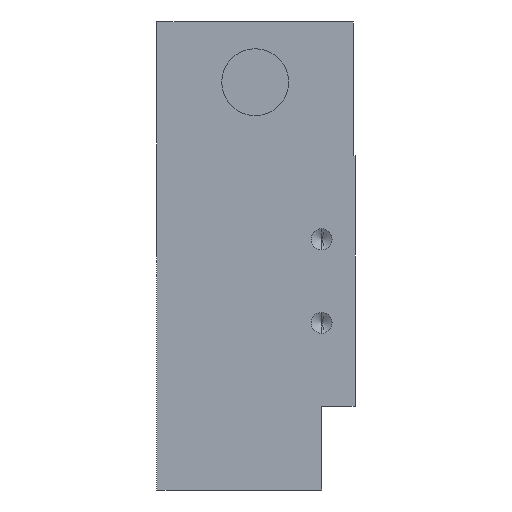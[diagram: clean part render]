
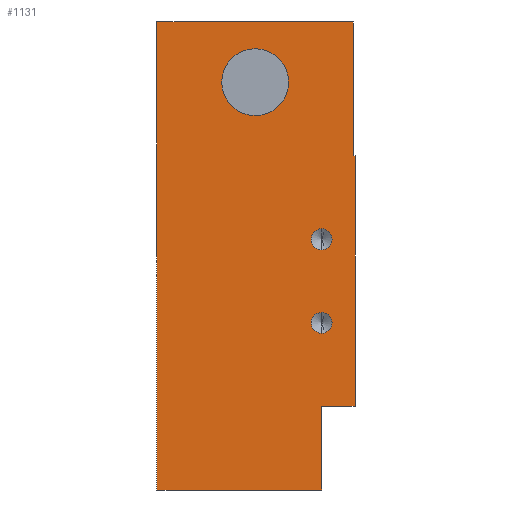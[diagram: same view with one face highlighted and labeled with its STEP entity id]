
A CAD part, left-side view. The second image highlights one B-rep face of the part: STEP entity #1131.
In plain terms, the highlighted planar face has unit normal (-1, 0, 0).
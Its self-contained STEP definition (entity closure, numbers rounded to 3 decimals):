
#20 = CARTESIAN_POINT ( 'NONE',  ( -59., 4., 0.75 ) ) ;
#44 = ORIENTED_EDGE ( 'NONE', *, *, #253, .T. ) ;
#64 = AXIS2_PLACEMENT_3D ( 'NONE', #1263, #907, #801 ) ;
#70 = LINE ( 'NONE', #699, #1400 ) ;
#87 = DIRECTION ( 'NONE',  ( 0., -1., 0. ) ) ;
#100 = CARTESIAN_POINT ( 'NONE',  ( -59., 0., 28. ) ) ;
#129 = VECTOR ( 'NONE', #355, 1000. ) ;
#138 = EDGE_LOOP ( 'NONE', ( #1427, #1503 ) ) ;
#157 = CARTESIAN_POINT ( 'NONE',  ( -59., 4., -8. ) ) ;
#162 = DIRECTION ( 'NONE',  ( 0., -1., 0. ) ) ;
#166 = CARTESIAN_POINT ( 'NONE',  ( -59., 23.7, 28. ) ) ;
#172 = VERTEX_POINT ( 'NONE', #20 ) ;
#173 = CARTESIAN_POINT ( 'NONE',  ( -59., 11.95, 20.8 ) ) ;
#176 = VERTEX_POINT ( 'NONE', #269 ) ;
#199 = LINE ( 'NONE', #803, #257 ) ;
#212 = FACE_BOUND ( 'NONE', #138, .T. ) ;
#237 = LINE ( 'NONE', #790, #916 ) ;
#248 = LINE ( 'NONE', #517, #353 ) ;
#253 = EDGE_CURVE ( 'NONE', #497, #1077, #237, .T. ) ;
#257 = VECTOR ( 'NONE', #697, 1000. ) ;
#269 = CARTESIAN_POINT ( 'NONE',  ( -59., 11.95, 24.8 ) ) ;
#276 = ORIENTED_EDGE ( 'NONE', *, *, #673, .T. ) ;
#279 = DIRECTION ( 'NONE',  ( 0., 0., 1. ) ) ;
#298 = DIRECTION ( 'NONE',  ( -1., 0., 0. ) ) ;
#309 = AXIS2_PLACEMENT_3D ( 'NONE', #722, #329, #1195 ) ;
#311 = DIRECTION ( 'NONE',  ( 0., 0., -1. ) ) ;
#317 = CARTESIAN_POINT ( 'NONE',  ( -59., 23.7, -28. ) ) ;
#324 = AXIS2_PLACEMENT_3D ( 'NONE', #157, #1029, #279 ) ;
#327 = CARTESIAN_POINT ( 'NONE',  ( -59., 4., -28. ) ) ;
#329 = DIRECTION ( 'NONE',  ( -1., 0., 0. ) ) ;
#343 = LINE ( 'NONE', #327, #1259 ) ;
#345 = EDGE_CURVE ( 'NONE', #931, #1146, #1104, .T. ) ;
#353 = VECTOR ( 'NONE', #162, 1000. ) ;
#355 = DIRECTION ( 'NONE',  ( 0., 0., 1. ) ) ;
#366 = CARTESIAN_POINT ( 'NONE',  ( -59., 4., -6.75 ) ) ;
#367 = FACE_BOUND ( 'NONE', #1207, .T. ) ;
#374 = AXIS2_PLACEMENT_3D ( 'NONE', #1418, #298, #1299 ) ;
#385 = CIRCLE ( 'NONE', #64, 1.25 ) ;
#424 = EDGE_CURVE ( 'NONE', #1097, #1077, #343, .T. ) ;
#440 = VECTOR ( 'NONE', #1214, 1000. ) ;
#462 = AXIS2_PLACEMENT_3D ( 'NONE', #173, #1055, #925 ) ;
#497 = VERTEX_POINT ( 'NONE', #317 ) ;
#507 = EDGE_CURVE ( 'NONE', #497, #701, #199, .T. ) ;
#517 = CARTESIAN_POINT ( 'NONE',  ( -59., 0.2, 12. ) ) ;
#540 = EDGE_CURVE ( 'NONE', #701, #1426, #953, .T. ) ;
#582 = DIRECTION ( 'NONE',  ( 0., 0., 1. ) ) ;
#594 = EDGE_CURVE ( 'NONE', #1146, #931, #1506, .T. ) ;
#601 = CARTESIAN_POINT ( 'NONE',  ( -59., 23.7, 28. ) ) ;
#620 = CARTESIAN_POINT ( 'NONE',  ( -59., 0.2, 12. ) ) ;
#647 = CIRCLE ( 'NONE', #309, 4. ) ;
#656 = CARTESIAN_POINT ( 'NONE',  ( -59., 4., -18. ) ) ;
#673 = EDGE_CURVE ( 'NONE', #1097, #1272, #70, .T. ) ;
#684 = ORIENTED_EDGE ( 'NONE', *, *, #1125, .F. ) ;
#688 = DIRECTION ( 'NONE',  ( 1., 0., 0. ) ) ;
#697 = DIRECTION ( 'NONE',  ( 0., 0., 1. ) ) ;
#699 = CARTESIAN_POINT ( 'NONE',  ( -59., 4., -18. ) ) ;
#701 = VERTEX_POINT ( 'NONE', #946 ) ;
#722 = CARTESIAN_POINT ( 'NONE',  ( -59., 11.95, 20.8 ) ) ;
#728 = ORIENTED_EDGE ( 'NONE', *, *, #735, .T. ) ;
#735 = EDGE_CURVE ( 'NONE', #1272, #1255, #1027, .T. ) ;
#766 = EDGE_LOOP ( 'NONE', ( #1270, #1035 ) ) ;
#769 = CARTESIAN_POINT ( 'NONE',  ( -59., 11.95, 16.8 ) ) ;
#772 = AXIS2_PLACEMENT_3D ( 'NONE', #1302, #935, #582 ) ;
#790 = CARTESIAN_POINT ( 'NONE',  ( -59., 23.7, -28. ) ) ;
#801 = DIRECTION ( 'NONE',  ( 0., 0., 1. ) ) ;
#803 = CARTESIAN_POINT ( 'NONE',  ( -59., 23.7, 28. ) ) ;
#819 = CARTESIAN_POINT ( 'NONE',  ( -59., 0.2, 28. ) ) ;
#891 = EDGE_LOOP ( 'NONE', ( #1246, #276, #728, #1153, #1322, #994, #973, #44 ) ) ;
#907 = DIRECTION ( 'NONE',  ( -1., 0., 0. ) ) ;
#911 = VECTOR ( 'NONE', #87, 1000. ) ;
#916 = VECTOR ( 'NONE', #1050, 1000. ) ;
#925 = DIRECTION ( 'NONE',  ( 0., 0., -1. ) ) ;
#931 = VERTEX_POINT ( 'NONE', #366 ) ;
#935 = DIRECTION ( 'NONE',  ( -1., 0., 0. ) ) ;
#946 = CARTESIAN_POINT ( 'NONE',  ( -59., 23.7, 28. ) ) ;
#951 = ORIENTED_EDGE ( 'NONE', *, *, #1202, .F. ) ;
#953 = LINE ( 'NONE', #601, #911 ) ;
#958 = VERTEX_POINT ( 'NONE', #620 ) ;
#973 = ORIENTED_EDGE ( 'NONE', *, *, #507, .F. ) ;
#978 = EDGE_CURVE ( 'NONE', #958, #1255, #248, .T. ) ;
#990 = VERTEX_POINT ( 'NONE', #769 ) ;
#994 = ORIENTED_EDGE ( 'NONE', *, *, #540, .F. ) ;
#1016 = VERTEX_POINT ( 'NONE', #1273 ) ;
#1027 = LINE ( 'NONE', #100, #129 ) ;
#1029 = DIRECTION ( 'NONE',  ( -1., 0., 0. ) ) ;
#1035 = ORIENTED_EDGE ( 'NONE', *, *, #1221, .F. ) ;
#1050 = DIRECTION ( 'NONE',  ( 0., -1., 0. ) ) ;
#1053 = CARTESIAN_POINT ( 'NONE',  ( -59., 0., 12. ) ) ;
#1055 = DIRECTION ( 'NONE',  ( -1., 0., 0. ) ) ;
#1061 = PLANE ( 'NONE',  #1441 ) ;
#1064 = DIRECTION ( 'NONE',  ( 0., -1., 0. ) ) ;
#1077 = VERTEX_POINT ( 'NONE', #1379 ) ;
#1097 = VERTEX_POINT ( 'NONE', #656 ) ;
#1104 = CIRCLE ( 'NONE', #324, 1.25 ) ;
#1108 = LINE ( 'NONE', #1447, #440 ) ;
#1124 = EDGE_CURVE ( 'NONE', #1016, #172, #1558, .T. ) ;
#1125 = EDGE_CURVE ( 'NONE', #176, #990, #1130, .T. ) ;
#1130 = CIRCLE ( 'NONE', #462, 4. ) ;
#1131 = ADVANCED_FACE ( 'NONE', ( #1268, #212, #367, #1478 ), #1061, .F. ) ;
#1146 = VERTEX_POINT ( 'NONE', #1284 ) ;
#1153 = ORIENTED_EDGE ( 'NONE', *, *, #978, .F. ) ;
#1195 = DIRECTION ( 'NONE',  ( 0., 0., -1. ) ) ;
#1202 = EDGE_CURVE ( 'NONE', #990, #176, #647, .T. ) ;
#1207 = EDGE_LOOP ( 'NONE', ( #951, #684 ) ) ;
#1214 = DIRECTION ( 'NONE',  ( 0., 0., -1. ) ) ;
#1221 = EDGE_CURVE ( 'NONE', #172, #1016, #385, .T. ) ;
#1246 = ORIENTED_EDGE ( 'NONE', *, *, #424, .F. ) ;
#1255 = VERTEX_POINT ( 'NONE', #1053 ) ;
#1259 = VECTOR ( 'NONE', #1287, 1000. ) ;
#1263 = CARTESIAN_POINT ( 'NONE',  ( -59., 4., 2. ) ) ;
#1268 = FACE_BOUND ( 'NONE', #766, .T. ) ;
#1270 = ORIENTED_EDGE ( 'NONE', *, *, #1124, .F. ) ;
#1272 = VERTEX_POINT ( 'NONE', #1529 ) ;
#1273 = CARTESIAN_POINT ( 'NONE',  ( -59., 4., 3.25 ) ) ;
#1284 = CARTESIAN_POINT ( 'NONE',  ( -59., 4., -9.25 ) ) ;
#1287 = DIRECTION ( 'NONE',  ( 0., 0., -1. ) ) ;
#1299 = DIRECTION ( 'NONE',  ( 0., 0., 1. ) ) ;
#1302 = CARTESIAN_POINT ( 'NONE',  ( -59., 4., -8. ) ) ;
#1322 = ORIENTED_EDGE ( 'NONE', *, *, #1546, .F. ) ;
#1379 = CARTESIAN_POINT ( 'NONE',  ( -59., 4., -28. ) ) ;
#1400 = VECTOR ( 'NONE', #1064, 1000. ) ;
#1418 = CARTESIAN_POINT ( 'NONE',  ( -59., 4., 2. ) ) ;
#1426 = VERTEX_POINT ( 'NONE', #819 ) ;
#1427 = ORIENTED_EDGE ( 'NONE', *, *, #345, .F. ) ;
#1441 = AXIS2_PLACEMENT_3D ( 'NONE', #166, #688, #311 ) ;
#1447 = CARTESIAN_POINT ( 'NONE',  ( -59., 0.2, 28. ) ) ;
#1478 = FACE_OUTER_BOUND ( 'NONE', #891, .T. ) ;
#1503 = ORIENTED_EDGE ( 'NONE', *, *, #594, .F. ) ;
#1506 = CIRCLE ( 'NONE', #772, 1.25 ) ;
#1529 = CARTESIAN_POINT ( 'NONE',  ( -59., 0., -18. ) ) ;
#1546 = EDGE_CURVE ( 'NONE', #1426, #958, #1108, .T. ) ;
#1558 = CIRCLE ( 'NONE', #374, 1.25 ) ;
